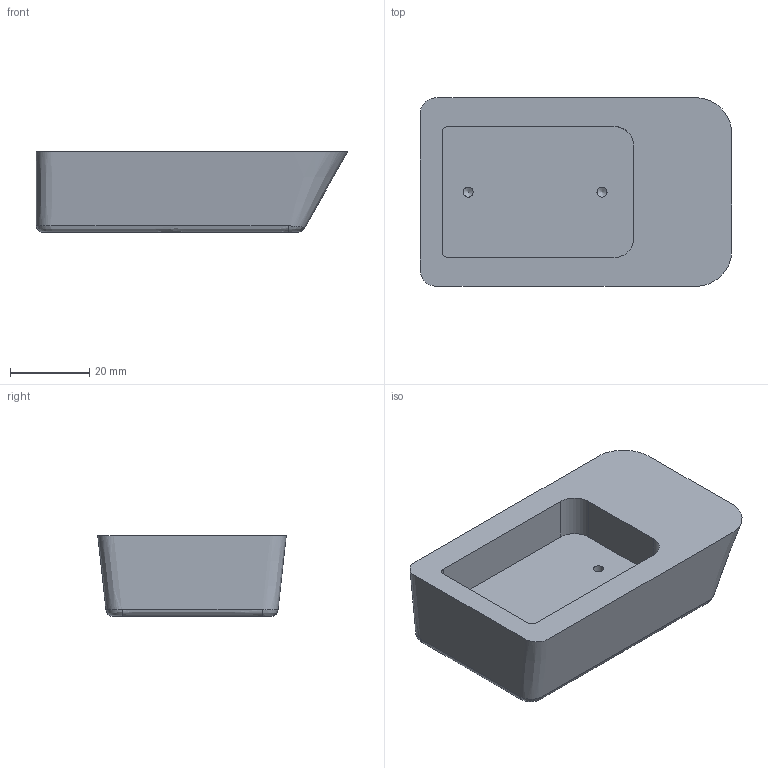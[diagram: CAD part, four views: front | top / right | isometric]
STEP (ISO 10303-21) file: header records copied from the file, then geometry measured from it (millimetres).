
FILE_DESCRIPTION(/* description */ (''),/* implementation_level */ '2;1');
FILE_NAME(/* name */ 'C:/Users/HIRSCH/Desktop/MagBaseAluminum.step',/* time_stamp */ '2022-05-15T17:06:42+02:00',/* author */ (''),/* organization */ (''),/* preprocessor_version */ 'ST-DEVELOPER v18.1',/* originating_system */ 'Autodesk Translation Framework v10.13.0.1454',/* authorisation */ '');
FILE_SCHEMA (('AUTOMOTIVE_DESIGN { 1 0 10303 214 3 1 1 }'));
Length unit declared in the file: millimetre
Products named in the file (1): MagBaseNew
Bounding box: 78.5 x 47.5 x 20.4 mm (x, y, z)
Volume: 48631.6 mm3; surface area: 13000.9 mm2
Topology: 1 solids, 1 shells, 22 faces, 55 edges, 36 vertices
Faces by surface type: plane 7, bspline 7, cylinder 6, cone 2
Full cylindrical faces by diameter (mm): 2.529 x2
Entity records: 5252 total; most frequent: CARTESIAN_POINT 4750, ORIENTED_EDGE 106, DIRECTION 77, EDGE_CURVE 53, VERTEX_POINT 36, AXIS2_PLACEMENT_3D 28, EDGE_LOOP 25, FACE_OUTER_BOUND 22
